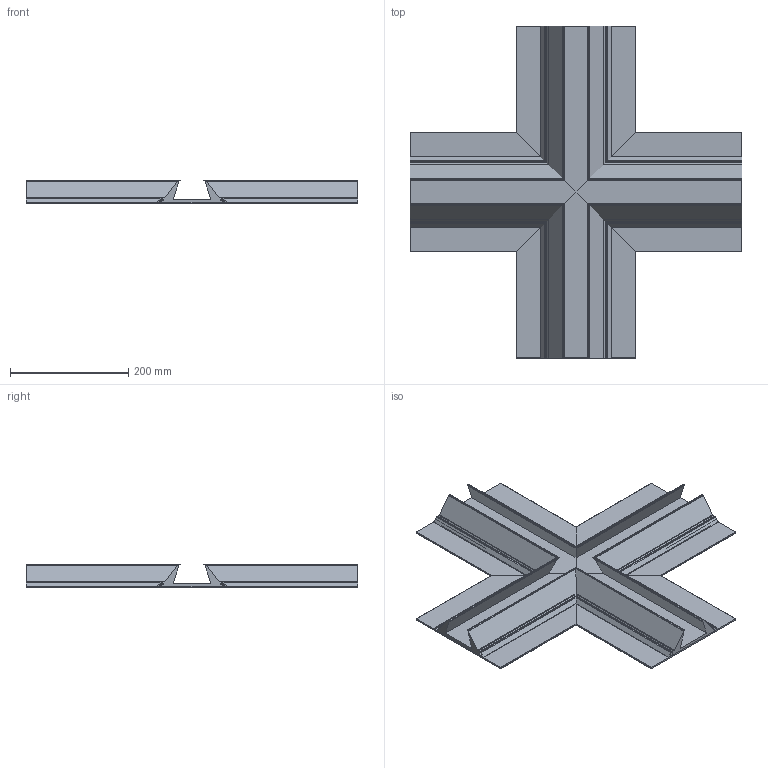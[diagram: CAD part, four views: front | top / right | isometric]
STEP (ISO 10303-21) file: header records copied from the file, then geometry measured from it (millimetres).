
FILE_DESCRIPTION(/* description */ (''),/* implementation_level */ '2;1');
FILE_NAME(/* name */ '13PNSW~S',/* time_stamp */ '2026-03-05T15:25:25+01:00',/* author */ (''),/* organization */ (''),/* preprocessor_version */ 'ST-DEVELOPER v16.5',/* originating_system */ '',/* authorisation */ '');
FILE_SCHEMA (('AUTOMOTIVE_DESIGN'));
Length unit declared in the file: millimetre
Products named in the file (1): Document
Bounding box: 562 x 562 x 40 mm (x, y, z)
Volume: 1609023.4 mm3; surface area: 787977.2 mm2
Topology: 1 solids, 1 shells, 292 faces, 736 edges, 435 vertices
Faces by surface type: bspline 292
Entity records: 17193 total; most frequent: CARTESIAN_POINT 8029, B_SPLINE_CURVE_WITH_KNOTS 1784, ORIENTED_EDGE 1472, PCURVE 1472, DEFINITIONAL_REPRESENTATION 1472, SURFACE_CURVE 736, EDGE_CURVE 736, VERTEX_POINT 435
